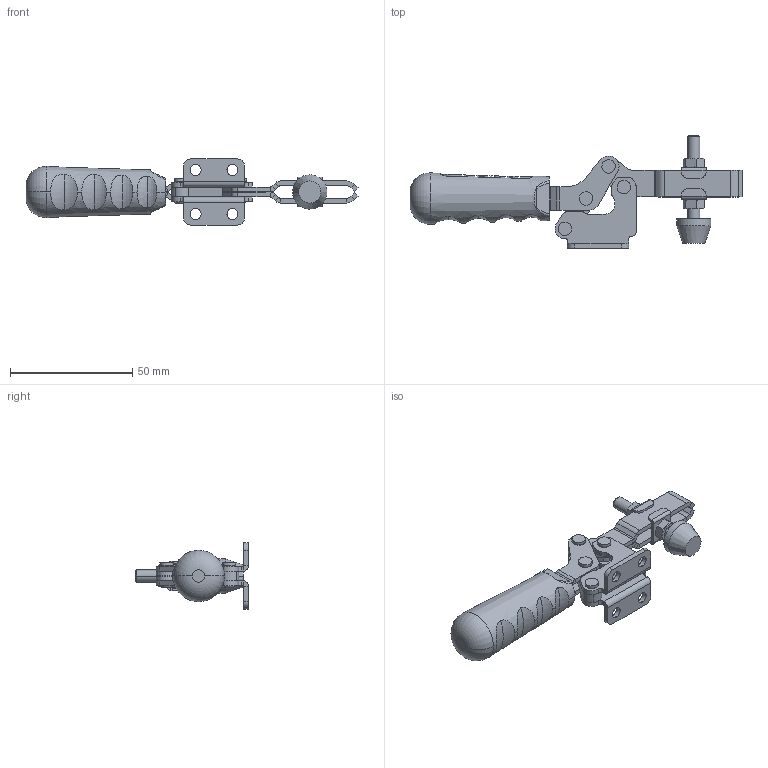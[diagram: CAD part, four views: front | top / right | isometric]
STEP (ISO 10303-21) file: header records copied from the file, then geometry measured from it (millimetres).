
FILE_DESCRIPTION (( 'STEP AP203' ), '1' );
FILE_NAME ('1201_Y.STEP', '2022-11-22T06:17:48', ( '' ), ( '' ), 'SwSTEP 2.0', 'SolidWorks 2023', '' );
FILE_SCHEMA (( 'CONFIG_CONTROL_DESIGN' ));
Length unit declared in the file: millimetre
Products named in the file (13): Aynalama2_1204_BaskıKolu_Varsayılan; M5 Somun_Varsayılan; 1_1204_gOVDE_Varsayılan; M5 Askı_Varsayılan; 3_1204_Hareket Kolu_Varsayılan; 2_1204_BaskıKolu_Varsayılan; M5 Baskı Grubu_Varsayılan; Pim_3_5x10_5_Varsayılan; Aynalama3_1204_Hareket Kolu_Varsayılan; M5 Baskı_Varsayılan; 4_1204_Mafsal_Varsayılan; 1201_Y; C55_Yeni_Tutamak_Varsayılan
Assembly tree (17 placements, depth 3):
  1201_Y
    1_1204_gOVDE_Varsayılan
    2_1204_BaskıKolu_Varsayılan
    3_1204_Hareket Kolu_Varsayılan
    4_1204_Mafsal_Varsayılan
    Pim_3_5x10_5_Varsayılan  x4
    M5 Baskı Grubu_Varsayılan
      M5 Baskı_Varsayılan
      M5 Somun_Varsayılan  x2
      M5 Askı_Varsayılan  x2
    Aynalama3_1204_Hareket Kolu_Varsayılan
    Aynalama2_1204_BaskıKolu_Varsayılan
    C55_Yeni_Tutamak_Varsayılan
Bounding box: 135.67 x 46.1 x 27.01 mm (x, y, z)
Volume: 24959.2 mm3; surface area: 20075.7 mm2
Topology: 17 solids, 17 shells, 850 faces, 2156 edges, 1366 vertices
Faces by surface type: plane 497, cylinder 237, bspline 60, torus 34, cone 22
Entity records: 24071 total; most frequent: CARTESIAN_POINT 7201, ORIENTED_EDGE 3268, DIRECTION 3062, EDGE_CURVE 1634, LINE 1060, VECTOR 1060, VERTEX_POINT 1042, AXIS2_PLACEMENT_3D 1001
